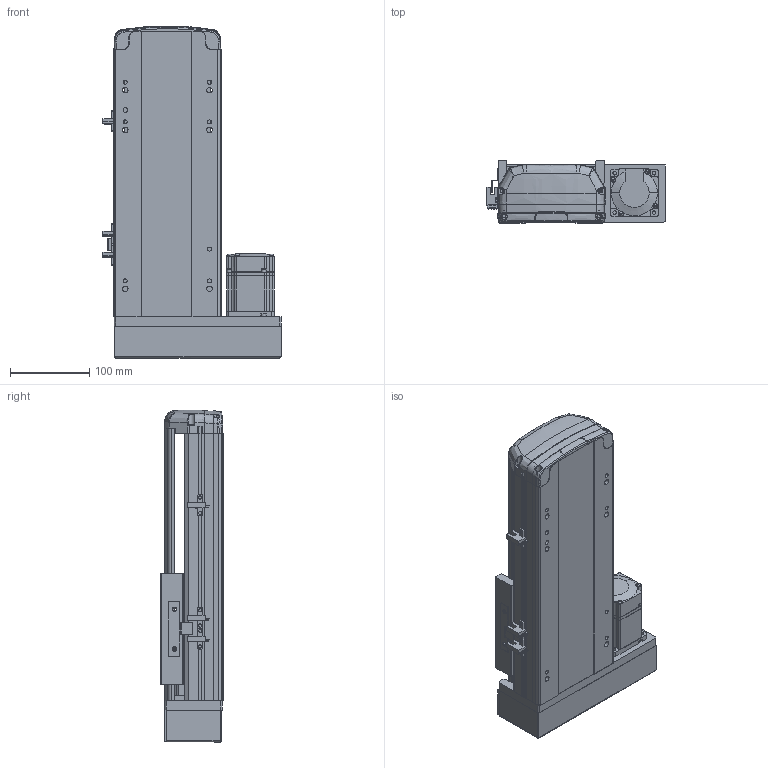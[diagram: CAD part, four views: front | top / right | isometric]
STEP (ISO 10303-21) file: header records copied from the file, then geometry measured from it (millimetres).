
FILE_DESCRIPTION (( 'STEP AP214' ), '1' );
FILE_NAME ('RTH14-XX-150-R-M20-C4.STEP', '2025-10-24T09:50:35', ( 'Microsoft' ), ( 'Microsoft' ), 'SwSTEP 2.0', 'SolidWorks 2018', '' );
FILE_SCHEMA (( 'AUTOMOTIVE_DESIGN' ));
Length unit declared in the file: millimetre
Products named in the file (10): N_RTH14-GY-001P^RTH14-XX-XX-R-M20-C4; N_RTH13-L-008-P20 萇儂啣酘蛌殏^RTH14-XX-XX-R-M20-C4; N_MSMD022P1AA_200W^RTH14-XX-XX-R-M20-C4; N_RTH13-L-012感应片（外置）^RTH14-XX-XX-R-M20-C4; RTH14-XX-150-R-M20-C4; N_RTH14-M-007P奻裔^RTH14-XX-XX-R-M20-C4; N_RTH14-R-004-SFSR16賑釱^RTH14-XX-XX-R-M20-C4; N_RTH13-L-018 裔赽^RTH14-XX-XX-R-M20-C4; N_OMRON EE-SX672 传感器^RTH14-XX-XX-R-M20-C4; N_RTH14-M-011P菁釱^RTH14-XX-XX-R-M20-C4
Assembly tree (11 placements, depth 2):
  RTH14-XX-150-R-M20-C4
    N_RTH14-M-011P菁釱^RTH14-XX-XX-R-M20-C4
    N_RTH14-M-007P奻裔^RTH14-XX-XX-R-M20-C4
    N_MSMD022P1AA_200W^RTH14-XX-XX-R-M20-C4
    N_RTH13-L-008-P20 萇儂啣酘蛌殏^RTH14-XX-XX-R-M20-C4
    N_RTH13-L-018 裔赽^RTH14-XX-XX-R-M20-C4
    N_RTH13-L-012感应片（外置）^RTH14-XX-XX-R-M20-C4
    N_OMRON EE-SX672 传感器^RTH14-XX-XX-R-M20-C4  x3
    N_RTH14-R-004-SFSR16賑釱^RTH14-XX-XX-R-M20-C4
    N_RTH14-GY-001P^RTH14-XX-XX-R-M20-C4
Bounding box: 224 x 78.03 x 417.73 mm (x, y, z)
Volume: 2234525.9 mm3; surface area: 555067 mm2
Topology: 10 solids, 12 shells, 1841 faces, 5146 edges, 3373 vertices
Faces by surface type: plane 985, cylinder 461, bspline 346, cone 45, torus 4
Entity records: 56029 total; most frequent: CARTESIAN_POINT 22825, ORIENTED_EDGE 7349, DIRECTION 5832, EDGE_CURVE 3680, VERTEX_POINT 2409, LINE 2126, VECTOR 2126, AXIS2_PLACEMENT_3D 1853
